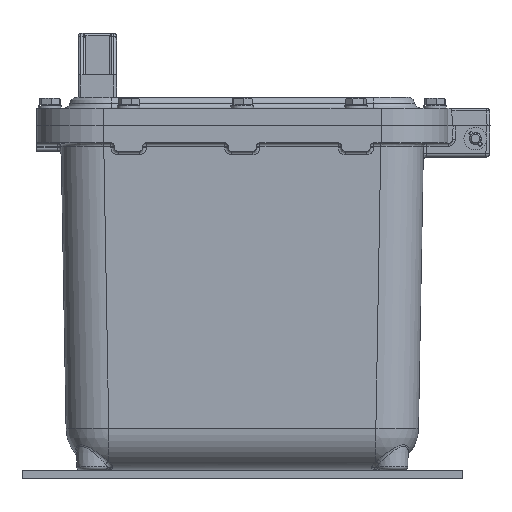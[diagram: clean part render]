
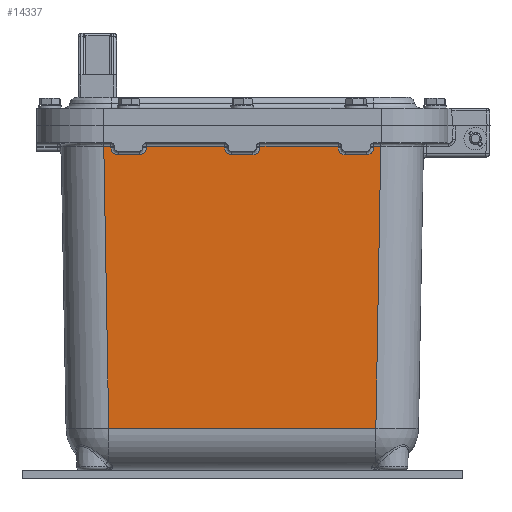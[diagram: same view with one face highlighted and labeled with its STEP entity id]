
A CAD part, front view. The second image highlights one B-rep face of the part: STEP entity #14337.
In plain terms, the highlighted planar face has unit normal (0, -1, -0.018).
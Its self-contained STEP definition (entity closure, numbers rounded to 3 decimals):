
#9393=CARTESIAN_POINT('',(-92.457,-167.748,-14.456));
#9394=VERTEX_POINT('',#9393);
#9419=CARTESIAN_POINT('',(-97.452,-167.748,-14.456));
#9420=VERTEX_POINT('',#9419);
#9428=CARTESIAN_POINT('',(-97.452,-167.748,-14.456));
#9429=DIRECTION('',(1.0,0.0,0.0));
#9430=VECTOR('',#9429,4.995);
#9431=LINE('',#9428,#9430);
#9432=EDGE_CURVE('',#9420,#9394,#9431,.T.);
#9655=CARTESIAN_POINT('',(-92.438,-167.729,-15.544));
#9656=VERTEX_POINT('',#9655);
#9664=CARTESIAN_POINT('',(-87.439,-167.643,-20.456));
#9665=VERTEX_POINT('',#9664);
#9666=CARTESIAN_POINT('',(-87.439,-167.73,-15.456));
#9667=DIRECTION('',(0.,-1.,-0.017));
#9668=DIRECTION('',(0.,0.017,-1.));
#9669=AXIS2_PLACEMENT_3D('',#9666,#9667,#9668);
#9670=ELLIPSE('',#9669,5.001,5.);
#9671=EDGE_CURVE('',#9656,#9665,#9670,.T.);
#9689=CARTESIAN_POINT('',(-92.457,-167.748,-14.456));
#9690=DIRECTION('',(0.017,0.017,-1.));
#9691=VECTOR('',#9690,1.088);
#9692=LINE('',#9689,#9691);
#9693=EDGE_CURVE('',#9394,#9656,#9692,.T.);
#9796=CARTESIAN_POINT('',(-72.561,-167.643,-20.456));
#9797=VERTEX_POINT('',#9796);
#9798=CARTESIAN_POINT('',(-67.562,-167.729,-15.544));
#9799=VERTEX_POINT('',#9798);
#9800=CARTESIAN_POINT('',(-72.561,-167.73,-15.456));
#9801=DIRECTION('',(0.,-1.,-0.017));
#9802=DIRECTION('',(0.,0.017,-1.));
#9803=AXIS2_PLACEMENT_3D('',#9800,#9801,#9802);
#9804=ELLIPSE('',#9803,5.001,5.);
#9805=EDGE_CURVE('',#9797,#9799,#9804,.T.);
#9877=CARTESIAN_POINT('',(-67.543,-167.748,-14.456));
#9878=VERTEX_POINT('',#9877);
#9933=CARTESIAN_POINT('',(-67.562,-167.729,-15.544));
#9934=DIRECTION('',(0.017,-0.017,1.));
#9935=VECTOR('',#9934,1.088);
#9936=LINE('',#9933,#9935);
#9937=EDGE_CURVE('',#9799,#9878,#9936,.T.);
#10000=CARTESIAN_POINT('',(-12.457,-167.748,-14.456));
#10001=VERTEX_POINT('',#10000);
#10025=CARTESIAN_POINT('',(-67.543,-167.748,-14.456));
#10026=DIRECTION('',(1.0,0.0,0.0));
#10027=VECTOR('',#10026,55.087);
#10028=LINE('',#10025,#10027);
#10029=EDGE_CURVE('',#9878,#10001,#10028,.T.);
#10165=CARTESIAN_POINT('',(-12.438,-167.729,-15.544));
#10166=VERTEX_POINT('',#10165);
#10174=CARTESIAN_POINT('',(-7.439,-167.643,-20.456));
#10175=VERTEX_POINT('',#10174);
#10176=CARTESIAN_POINT('',(-7.439,-167.73,-15.456));
#10177=DIRECTION('',(0.0,-1.,-0.017));
#10178=DIRECTION('',(0.,0.017,-1.));
#10179=AXIS2_PLACEMENT_3D('',#10176,#10177,#10178);
#10180=ELLIPSE('',#10179,5.001,5.);
#10181=EDGE_CURVE('',#10166,#10175,#10180,.T.);
#10199=CARTESIAN_POINT('',(-12.457,-167.748,-14.456));
#10200=DIRECTION('',(0.017,0.017,-1.));
#10201=VECTOR('',#10200,1.088);
#10202=LINE('',#10199,#10201);
#10203=EDGE_CURVE('',#10001,#10166,#10202,.T.);
#10306=CARTESIAN_POINT('',(7.439,-167.643,-20.456));
#10307=VERTEX_POINT('',#10306);
#10308=CARTESIAN_POINT('',(12.438,-167.729,-15.544));
#10309=VERTEX_POINT('',#10308);
#10310=CARTESIAN_POINT('',(7.439,-167.73,-15.456));
#10311=DIRECTION('',(0.,-1.,-0.017));
#10312=DIRECTION('',(0.,0.017,-1.));
#10313=AXIS2_PLACEMENT_3D('',#10310,#10311,#10312);
#10314=ELLIPSE('',#10313,5.001,5.);
#10315=EDGE_CURVE('',#10307,#10309,#10314,.T.);
#10377=CARTESIAN_POINT('',(12.457,-167.748,-14.456));
#10378=VERTEX_POINT('',#10377);
#10433=CARTESIAN_POINT('',(12.438,-167.729,-15.544));
#10434=DIRECTION('',(0.017,-0.017,1.));
#10435=VECTOR('',#10434,1.088);
#10436=LINE('',#10433,#10435);
#10437=EDGE_CURVE('',#10309,#10378,#10436,.T.);
#10490=CARTESIAN_POINT('',(67.543,-167.748,-14.456));
#10491=VERTEX_POINT('',#10490);
#10515=CARTESIAN_POINT('',(12.457,-167.748,-14.456));
#10516=DIRECTION('',(1.0,0.0,0.0));
#10517=VECTOR('',#10516,55.087);
#10518=LINE('',#10515,#10517);
#10519=EDGE_CURVE('',#10378,#10491,#10518,.T.);
#10640=CARTESIAN_POINT('',(67.562,-167.729,-15.544));
#10641=VERTEX_POINT('',#10640);
#10649=CARTESIAN_POINT('',(72.561,-167.643,-20.456));
#10650=VERTEX_POINT('',#10649);
#10651=CARTESIAN_POINT('',(72.561,-167.73,-15.456));
#10652=DIRECTION('',(0.,-1.,-0.017));
#10653=DIRECTION('',(0.,0.017,-1.));
#10654=AXIS2_PLACEMENT_3D('',#10651,#10652,#10653);
#10655=ELLIPSE('',#10654,5.001,5.);
#10656=EDGE_CURVE('',#10641,#10650,#10655,.T.);
#10674=CARTESIAN_POINT('',(67.543,-167.748,-14.456));
#10675=DIRECTION('',(0.017,0.017,-1.));
#10676=VECTOR('',#10675,1.088);
#10677=LINE('',#10674,#10676);
#10678=EDGE_CURVE('',#10491,#10641,#10677,.T.);
#10771=CARTESIAN_POINT('',(87.439,-167.643,-20.456));
#10772=VERTEX_POINT('',#10771);
#10773=CARTESIAN_POINT('',(92.438,-167.729,-15.544));
#10774=VERTEX_POINT('',#10773);
#10775=CARTESIAN_POINT('',(87.439,-167.73,-15.456));
#10776=DIRECTION('',(0.0,-1.,-0.017));
#10777=DIRECTION('',(0.,0.017,-1.));
#10778=AXIS2_PLACEMENT_3D('',#10775,#10776,#10777);
#10779=ELLIPSE('',#10778,5.001,5.);
#10780=EDGE_CURVE('',#10772,#10774,#10779,.T.);
#10876=CARTESIAN_POINT('',(92.457,-167.748,-14.456));
#10877=VERTEX_POINT('',#10876);
#10932=CARTESIAN_POINT('',(92.438,-167.729,-15.544));
#10933=DIRECTION('',(0.017,-0.017,1.));
#10934=VECTOR('',#10933,1.088);
#10935=LINE('',#10932,#10934);
#10936=EDGE_CURVE('',#10774,#10877,#10935,.T.);
#11076=CARTESIAN_POINT('',(97.452,-167.748,-14.456));
#11077=VERTEX_POINT('',#11076);
#11109=CARTESIAN_POINT('',(92.457,-167.748,-14.456));
#11110=DIRECTION('',(1.0,0.0,0.0));
#11111=VECTOR('',#11110,4.995);
#11112=LINE('',#11109,#11111);
#11113=EDGE_CURVE('',#10877,#11077,#11112,.T.);
#13730=CARTESIAN_POINT('',(72.561,-167.643,-20.456));
#13731=DIRECTION('',(1.0,0.0,0.0));
#13732=VECTOR('',#13731,14.877);
#13733=LINE('',#13730,#13732);
#13734=EDGE_CURVE('',#10650,#10772,#13733,.T.);
#13896=CARTESIAN_POINT('',(-7.439,-167.643,-20.456));
#13897=DIRECTION('',(1.0,0.0,0.0));
#13898=VECTOR('',#13897,14.877);
#13899=LINE('',#13896,#13898);
#13900=EDGE_CURVE('',#10175,#10307,#13899,.T.);
#14138=CARTESIAN_POINT('',(-87.439,-167.643,-20.456));
#14139=DIRECTION('',(1.0,0.0,0.0));
#14140=VECTOR('',#14139,14.877);
#14141=LINE('',#14138,#14140);
#14142=EDGE_CURVE('',#9665,#9797,#14141,.T.);
#14270=CARTESIAN_POINT('',(93.991,-164.287,-212.724));
#14271=VERTEX_POINT('',#14270);
#14272=CARTESIAN_POINT('',(97.452,-167.748,-14.456));
#14273=DIRECTION('',(-0.017,0.017,-1.));
#14274=VECTOR('',#14273,198.328);
#14275=LINE('',#14272,#14274);
#14276=EDGE_CURVE('',#11077,#14271,#14275,.T.);
#14296=CARTESIAN_POINT('',(-127.7,-168.0,0.0));
#14297=DIRECTION('',(0.0,-1.,-0.017));
#14298=DIRECTION('',(-1.0,0.0,0.0));
#14299=AXIS2_PLACEMENT_3D('',#14296,#14297,#14298);
#14300=PLANE('',#14299);
#14301=ORIENTED_EDGE('',*,*,#11113,.F.);
#14302=ORIENTED_EDGE('',*,*,#10936,.F.);
#14303=ORIENTED_EDGE('',*,*,#10780,.F.);
#14304=ORIENTED_EDGE('',*,*,#13734,.F.);
#14305=ORIENTED_EDGE('',*,*,#10656,.F.);
#14306=ORIENTED_EDGE('',*,*,#10678,.F.);
#14307=ORIENTED_EDGE('',*,*,#10519,.F.);
#14308=ORIENTED_EDGE('',*,*,#10437,.F.);
#14309=ORIENTED_EDGE('',*,*,#10315,.F.);
#14310=ORIENTED_EDGE('',*,*,#13900,.F.);
#14311=ORIENTED_EDGE('',*,*,#10181,.F.);
#14312=ORIENTED_EDGE('',*,*,#10203,.F.);
#14313=ORIENTED_EDGE('',*,*,#10029,.F.);
#14314=ORIENTED_EDGE('',*,*,#9937,.F.);
#14315=ORIENTED_EDGE('',*,*,#9805,.F.);
#14316=ORIENTED_EDGE('',*,*,#14142,.F.);
#14317=ORIENTED_EDGE('',*,*,#9671,.F.);
#14318=ORIENTED_EDGE('',*,*,#9693,.F.);
#14319=ORIENTED_EDGE('',*,*,#9432,.F.);
#14320=CARTESIAN_POINT('',(-93.991,-164.287,-212.724));
#14321=VERTEX_POINT('',#14320);
#14322=CARTESIAN_POINT('',(-93.991,-164.287,-212.724));
#14323=DIRECTION('',(-0.017,-0.017,1.));
#14324=VECTOR('',#14323,198.328);
#14325=LINE('',#14322,#14324);
#14326=EDGE_CURVE('',#14321,#9420,#14325,.T.);
#14327=ORIENTED_EDGE('',*,*,#14326,.F.);
#14328=CARTESIAN_POINT('',(93.991,-164.287,-212.724));
#14329=DIRECTION('',(-1.0,0.0,0.0));
#14330=VECTOR('',#14329,187.983);
#14331=LINE('',#14328,#14330);
#14332=EDGE_CURVE('',#14271,#14321,#14331,.T.);
#14333=ORIENTED_EDGE('',*,*,#14332,.F.);
#14334=ORIENTED_EDGE('',*,*,#14276,.F.);
#14335=EDGE_LOOP('',(#14301,#14302,#14303,#14304,#14305,#14306,#14307,#14308,#14309,#14310,#14311,#14312,#14313,#14314,#14315,#14316,#14317,#14318,#14319,#14327,#14333,#14334));
#14336=FACE_OUTER_BOUND('',#14335,.T.);
#14337=ADVANCED_FACE('',(#14336),#14300,.T.);
